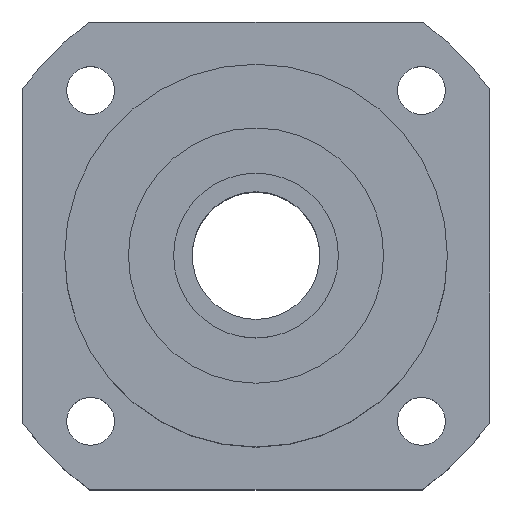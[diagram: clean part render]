
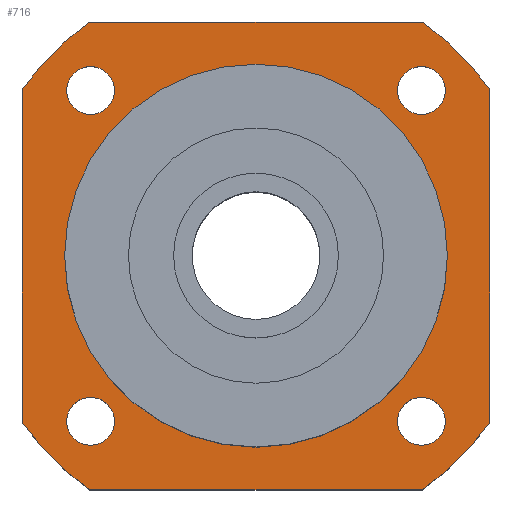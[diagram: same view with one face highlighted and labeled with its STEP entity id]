
A CAD part, top view. The second image highlights one B-rep face of the part: STEP entity #716.
In plain terms, the highlighted planar face has unit normal (0, 0, 1).
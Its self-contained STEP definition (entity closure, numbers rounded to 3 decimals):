
#35=LINE($,#1340,#67);
#38=LINE($,#1348,#70);
#41=LINE($,#1356,#73);
#44=LINE($,#1363,#76);
#67=VECTOR($,#1000,31.305);
#70=VECTOR($,#1009,31.305);
#73=VECTOR($,#1018,31.305);
#76=VECTOR($,#1027,31.305);
#190=FACE_BOUND($,#278,.T.);
#191=FACE_BOUND($,#279,.T.);
#192=FACE_BOUND($,#280,.T.);
#193=FACE_BOUND($,#281,.T.);
#194=FACE_BOUND($,#282,.T.);
#195=FACE_BOUND($,#283,.T.);
#278=EDGE_LOOP($,(#637));
#279=EDGE_LOOP($,(#638));
#280=EDGE_LOOP($,(#639));
#281=EDGE_LOOP($,(#640));
#282=EDGE_LOOP($,(#641));
#283=EDGE_LOOP($,(#642,#643,#644,#645,#646,#647,#648,#649));
#320=CIRCLE($,#788,2.25);
#321=CIRCLE($,#790,2.25);
#322=CIRCLE($,#792,2.25);
#323=CIRCLE($,#794,2.25);
#325=CIRCLE($,#797,18.);
#326=CIRCLE($,#800,27.);
#327=CIRCLE($,#803,27.);
#328=CIRCLE($,#806,27.);
#329=CIRCLE($,#809,27.);
#384=VERTEX_POINT($,#1315);
#385=VERTEX_POINT($,#1318);
#386=VERTEX_POINT($,#1321);
#387=VERTEX_POINT($,#1324);
#389=VERTEX_POINT($,#1329);
#390=VERTEX_POINT($,#1333);
#391=VERTEX_POINT($,#1335);
#392=VERTEX_POINT($,#1339);
#393=VERTEX_POINT($,#1343);
#394=VERTEX_POINT($,#1347);
#395=VERTEX_POINT($,#1351);
#396=VERTEX_POINT($,#1355);
#397=VERTEX_POINT($,#1359);
#460=EDGE_CURVE($,#384,#384,#320,.T.);
#461=EDGE_CURVE($,#385,#385,#321,.T.);
#462=EDGE_CURVE($,#386,#386,#322,.T.);
#463=EDGE_CURVE($,#387,#387,#323,.T.);
#465=EDGE_CURVE($,#389,#389,#325,.T.);
#467=EDGE_CURVE($,#391,#390,#326,.T.);
#469=EDGE_CURVE($,#392,#391,#35,.T.);
#471=EDGE_CURVE($,#393,#392,#327,.T.);
#473=EDGE_CURVE($,#394,#393,#38,.T.);
#475=EDGE_CURVE($,#395,#394,#328,.T.);
#477=EDGE_CURVE($,#396,#395,#41,.T.);
#479=EDGE_CURVE($,#397,#396,#329,.T.);
#481=EDGE_CURVE($,#390,#397,#44,.T.);
#637=ORIENTED_EDGE($,*,*,#460,.T.);
#638=ORIENTED_EDGE($,*,*,#461,.T.);
#639=ORIENTED_EDGE($,*,*,#462,.T.);
#640=ORIENTED_EDGE($,*,*,#463,.T.);
#641=ORIENTED_EDGE($,*,*,#465,.T.);
#642=ORIENTED_EDGE($,*,*,#481,.T.);
#643=ORIENTED_EDGE($,*,*,#479,.T.);
#644=ORIENTED_EDGE($,*,*,#477,.T.);
#645=ORIENTED_EDGE($,*,*,#475,.T.);
#646=ORIENTED_EDGE($,*,*,#473,.T.);
#647=ORIENTED_EDGE($,*,*,#471,.T.);
#648=ORIENTED_EDGE($,*,*,#469,.T.);
#649=ORIENTED_EDGE($,*,*,#467,.T.);
#670=PLANE($,#811);
#716=ADVANCED_FACE($,(#190,#191,#192,#193,#194,#195),#670,.T.);
#788=AXIS2_PLACEMENT_3D($,#1316,#970,#971);
#790=AXIS2_PLACEMENT_3D($,#1319,#974,#975);
#792=AXIS2_PLACEMENT_3D($,#1322,#978,#979);
#794=AXIS2_PLACEMENT_3D($,#1325,#982,#983);
#797=AXIS2_PLACEMENT_3D($,#1330,#988,#989);
#800=AXIS2_PLACEMENT_3D($,#1336,#995,#996);
#803=AXIS2_PLACEMENT_3D($,#1344,#1004,#1005);
#806=AXIS2_PLACEMENT_3D($,#1352,#1013,#1014);
#809=AXIS2_PLACEMENT_3D($,#1360,#1022,#1023);
#811=AXIS2_PLACEMENT_3D($,#1364,#1028,#1029);
#970=DIRECTION('center_axis',(0.,0.,-1.));
#971=DIRECTION('ref_axis',(-1.,0.,0.));
#974=DIRECTION('center_axis',(0.,0.,-1.));
#975=DIRECTION('ref_axis',(-1.,0.,0.));
#978=DIRECTION('center_axis',(0.,0.,-1.));
#979=DIRECTION('ref_axis',(-1.,0.,0.));
#982=DIRECTION('center_axis',(0.,0.,-1.));
#983=DIRECTION('ref_axis',(-1.,0.,0.));
#988=DIRECTION('center_axis',(0.,0.,-1.));
#989=DIRECTION('ref_axis',(-1.,0.,0.));
#995=DIRECTION('center_axis',(0.,0.,1.));
#996=DIRECTION('ref_axis',(-0.815,-0.58,0.));
#1000=DIRECTION($,(0.,1.,0.));
#1004=DIRECTION('center_axis',(0.,0.,1.));
#1005=DIRECTION('ref_axis',(-0.58,0.815,0.));
#1009=DIRECTION($,(1.,0.,0.));
#1013=DIRECTION('center_axis',(0.,0.,1.));
#1014=DIRECTION('ref_axis',(0.815,0.58,0.));
#1018=DIRECTION($,(0.,-1.,0.));
#1022=DIRECTION('center_axis',(0.,0.,1.));
#1023=DIRECTION('ref_axis',(0.58,-0.815,0.));
#1027=DIRECTION($,(-1.,0.,0.));
#1028=DIRECTION('center_axis',(0.,0.,1.));
#1029=DIRECTION('ref_axis',(1.,0.,0.));
#1315=CARTESIAN_POINT('',(-13.306,-15.556,5.));
#1316=CARTESIAN_POINT('Origin',(-15.556,-15.556,5.));
#1318=CARTESIAN_POINT('',(17.806,15.556,5.));
#1319=CARTESIAN_POINT('Origin',(15.556,15.556,5.));
#1321=CARTESIAN_POINT('',(17.806,-15.556,5.));
#1322=CARTESIAN_POINT('Origin',(15.556,-15.556,5.));
#1324=CARTESIAN_POINT('',(-13.306,15.556,5.));
#1325=CARTESIAN_POINT('Origin',(-15.556,15.556,5.));
#1329=CARTESIAN_POINT('',(18.,0.,5.));
#1330=CARTESIAN_POINT('Origin',(0.,0.,5.));
#1333=CARTESIAN_POINT('',(15.652,22.,5.));
#1335=CARTESIAN_POINT('',(22.,15.652,5.));
#1336=CARTESIAN_POINT('Origin',(0.,0.,5.));
#1339=CARTESIAN_POINT('',(22.,-15.652,5.));
#1340=CARTESIAN_POINT($,(22.,15.652,5.));
#1343=CARTESIAN_POINT('',(15.652,-22.,5.));
#1344=CARTESIAN_POINT('Origin',(0.,0.,5.));
#1347=CARTESIAN_POINT('',(-15.652,-22.,5.));
#1348=CARTESIAN_POINT($,(15.652,-22.,5.));
#1351=CARTESIAN_POINT('',(-22.,-15.652,5.));
#1352=CARTESIAN_POINT('Origin',(0.,0.,5.));
#1355=CARTESIAN_POINT('',(-22.,15.652,5.));
#1356=CARTESIAN_POINT($,(-22.,-15.652,5.));
#1359=CARTESIAN_POINT('',(-15.652,22.,5.));
#1360=CARTESIAN_POINT('Origin',(0.,0.,5.));
#1363=CARTESIAN_POINT($,(-15.652,22.,5.));
#1364=CARTESIAN_POINT('Origin',(0.,0.,
5.));
